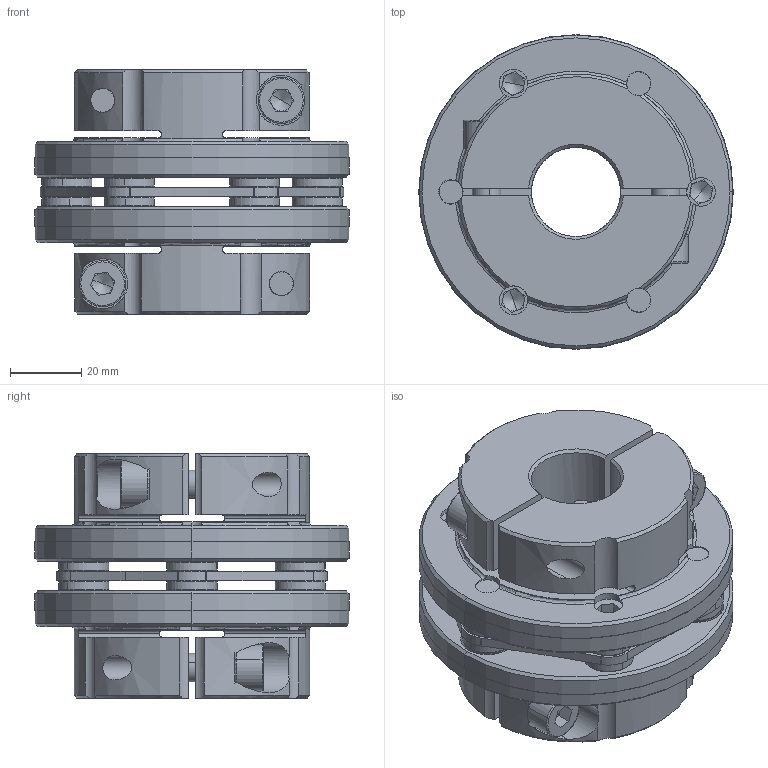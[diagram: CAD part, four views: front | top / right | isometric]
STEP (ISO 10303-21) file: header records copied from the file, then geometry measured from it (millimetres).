
FILE_DESCRIPTION (( 'STEP AP203' ), '1' );
FILE_NAME ('SCDS-88C-TYPE1(25X25).STEP', '2021-12-27T01:59:23', ( '' ), ( '' ), 'SwSTEP 2.0', 'SolidWorks 2021', '' );
FILE_SCHEMA (( 'CONFIG_CONTROL_DESIGN' ));
Length unit declared in the file: millimetre
Products named in the file (1): SCDS-88C-TYPE1(25X25)
Bounding box: 88 x 88 x 68.3 mm (x, y, z)
Volume: 220774.9 mm3; surface area: 68247.2 mm2
Topology: 1 solids, 13 shells, 713 faces, 1771 edges, 1090 vertices
Faces by surface type: cylinder 259, plane 222, cone 124, torus 108
Entity records: 22158 total; most frequent: CARTESIAN_POINT 4623, DIRECTION 3975, ORIENTED_EDGE 3502, EDGE_CURVE 1751, AXIS2_PLACEMENT_3D 1634, VERTEX_POINT 1090, CIRCLE 920, EDGE_LOOP 797
